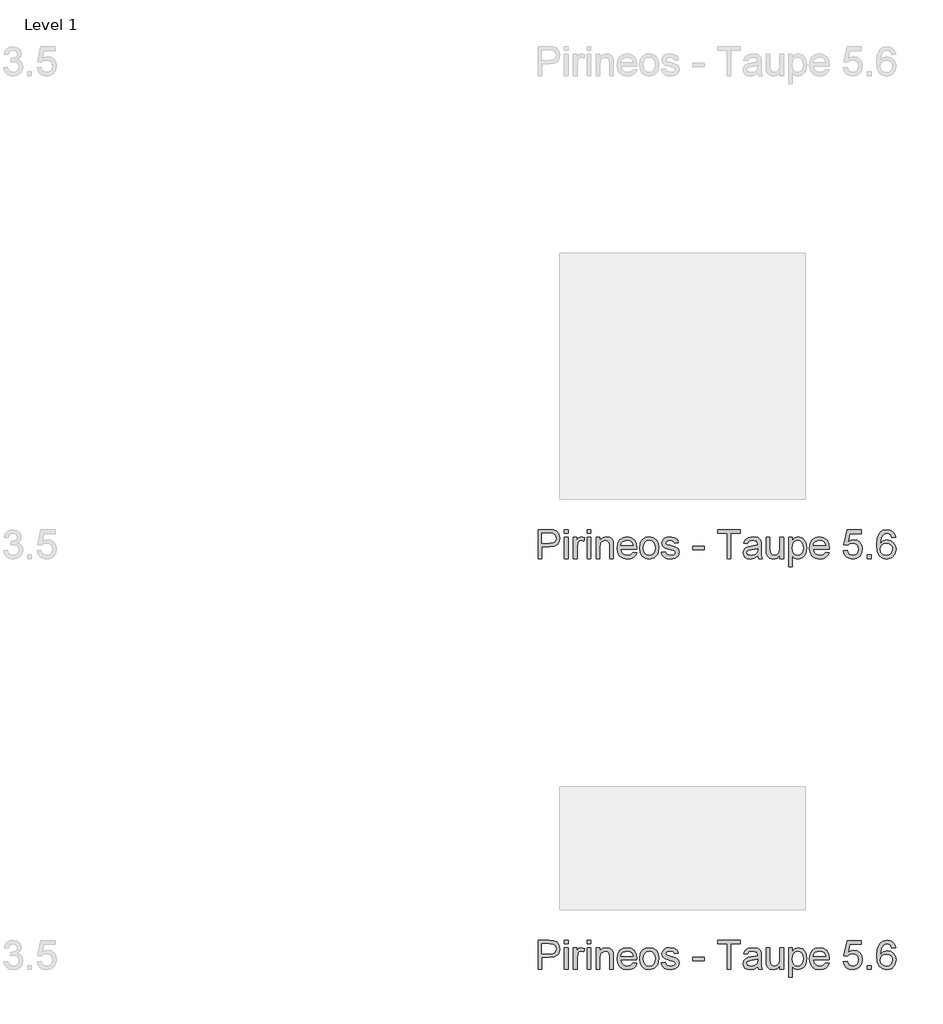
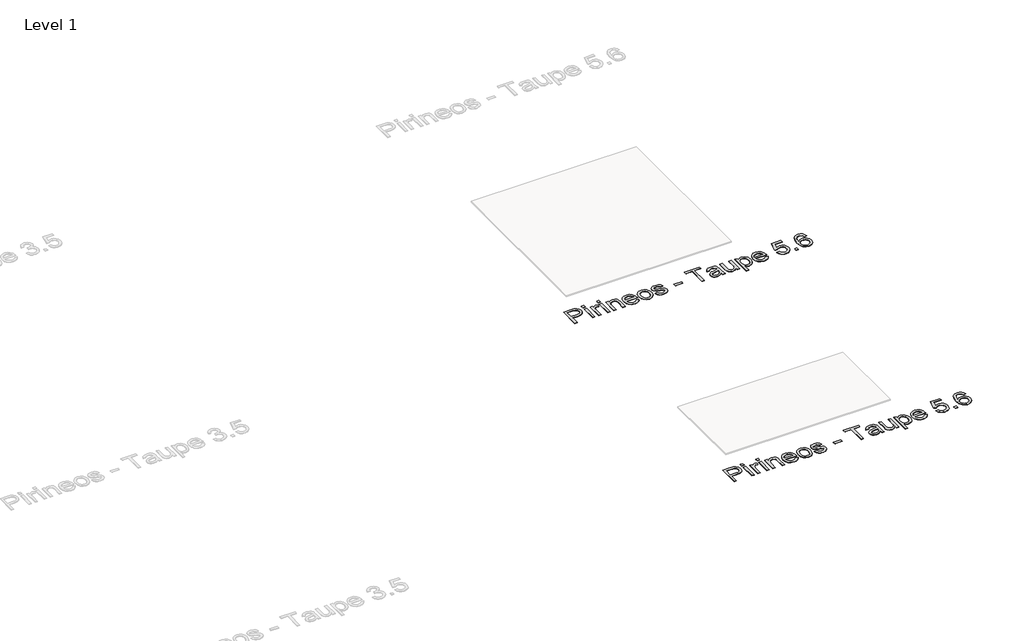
# One storey, part 26 of 80: 2 proxies.
"""IFC4 building model written with IfcOpenShell, lengths in millimetres."""

from ifc_helpers import new_model, si_unit, origin, origin_with_axes, place, context, project, spatial, polyline, outline, extrude, element, save

model = new_model("IFC4")

# Units and contexts
model_context = context("Model", 3, world=origin())
ifc_project = project(units=[si_unit("LENGTHUNIT", "METRE", prefix="MILLI")], contexts=[model_context])

# Site, building, storey
site = spatial("IfcSite", under=ifc_project)
building = spatial("IfcBuilding", under=site)
storey = spatial("IfcBuildingStorey", under=building, Name="Level 1", Elevation=0.0)

# Proxies
placement = place(None, origin())
element("IfcBuildingElementProxy", 1, Name="24\" Arial", ObjectType="24\" Arial", at=placement, inside=storey, context=model_context, shape_type="SweptSolid", body=[
    extrude(outline(polyline([(-7713.5376464, -616.5984808), (-7713.5376464, -498.4446346), (-7669.7491848, -498.4446346), (-7652.0953387, -499.5696346), (-7637.7443771, -505.0936731), (-7628.4414925, -516.51675), (-7624.9222617, -532.6273269), (-7627.2984637, -546.5528077), (-7634.4270694, -558.1561731), (-7647.7575983, -565.9879038), (-7668.7395694, -568.5984808), (-7698.7684156, -568.5984808), (-7698.7684156, -616.5984808), (-7713.5376464, -616.5984808)]), holes=[polyline([(-7698.7684156, -553.82925), (-7667.8741848, -553.82925), (-7654.778031, -552.4734808), (-7646.1241848, -548.4061731), (-7641.2996656, -541.8797308), (-7639.6914925, -533.1465577), (-7643.4847617, -520.9157884), (-7653.4511079, -514.2234808), (-7668.2203387, -513.2138654), (-7698.7684156, -513.2138654), (-7698.7684156, -553.82925)])]), origin_with_axes(), (0.0, 0.0, 1.0), 2.0),
    extrude(outline(polyline([(-7606.4607233, -616.5984808), (-7606.4607233, -529.82925), (-7591.6914925, -529.82925), (-7591.6914925, -616.5984808), (-7606.4607233, -616.5984808)])), origin_with_axes(), (0.0, 0.0, 1.0), 2.0),
    extrude(outline(polyline([(-7606.4607233, -513.2138654), (-7606.4607233, -498.4446346), (-7591.6914925, -498.4446346), (-7591.6914925, -513.2138654), (-7606.4607233, -513.2138654)])), origin_with_axes(), (0.0, 0.0, 1.0), 2.0),
    extrude(outline(polyline([(-7569.5376464, -616.5984808), (-7569.5376464, -529.82925), (-7556.6145694, -529.82925), (-7556.6145694, -542.6657884), (-7547.4414925, -530.8388654), (-7538.2107233, -527.9830961), (-7523.3838002, -532.5407884), (-7528.3164925, -545.7811731), (-7538.7011079, -542.7523269), (-7547.0520694, -545.6657884), (-7552.3741848, -553.7427115), (-7554.7684156, -570.9927115), (-7554.7684156, -616.5984808), (-7569.5376464, -616.5984808)])), origin_with_axes(), (0.0, 0.0, 1.0), 2.0),
    extrude(outline(polyline([(-7514.153031, -616.5984808), (-7514.153031, -529.82925), (-7499.3838002, -529.82925), (-7499.3838002, -616.5984808), (-7514.153031, -616.5984808)])), origin_with_axes(), (0.0, 0.0, 1.0), 2.0),
    extrude(outline(polyline([(-7514.153031, -513.2138654), (-7514.153031, -498.4446346), (-7499.3838002, -498.4446346), (-7499.3838002, -513.2138654), (-7514.153031, -513.2138654)])), origin_with_axes(), (0.0, 0.0, 1.0), 2.0),
    extrude(outline(polyline([(-7477.2299541, -616.5984808), (-7477.2299541, -529.82925), (-7462.4607233, -529.82925), (-7462.4607233, -541.9446346), (-7451.1674541, -531.4734808), (-7435.7491848, -527.9830961), (-7421.8020694, -530.7955961), (-7412.2828387, -538.1802115), (-7407.8549541, -549.0407884), (-7407.0761079, -563.3196346), (-7407.0761079, -616.5984808), (-7421.8453387, -616.5984808), (-7421.8453387, -565.3100192), (-7423.5472617, -552.2427115), (-7429.5616848, -545.3340577), (-7439.7011079, -542.7523269), (-7455.7251464, -548.5504038), (-7460.7768291, -556.9518461), (-7462.4607233, -570.5600192), (-7462.4607233, -616.5984808), (-7477.2299541, -616.5984808)])), origin_with_axes(), (0.0, 0.0, 1.0), 2.0),
    extrude(outline(polyline([(-7326.0184156, -590.7523269), (-7311.5376464, -592.5984808), (-7316.7551944, -603.5095384), (-7325.0809156, -611.6657884), (-7336.3273098, -616.7499231), (-7350.3068771, -618.4446346), (-7367.6362041, -615.5203558), (-7380.9703387, -606.7475192), (-7389.4727425, -592.6958365), (-7392.3068771, -573.9350192), (-7389.4438964, -554.5431923), (-7380.8549541, -540.0407884), (-7367.7011079, -530.9975192), (-7351.1434156, -527.9830961), (-7335.1013483, -530.9903077), (-7322.2828387, -540.0119423), (-7313.8777906, -554.4855), (-7311.0761079, -573.8484808), (-7311.1626464, -577.82925), (-7377.5376464, -577.82925), (-7374.981156, -588.8845384), (-7369.0424541, -597.0119423), (-7360.4715406, -602.0095384), (-7350.0184156, -603.6754038), (-7335.5376464, -600.5888654), (-7326.0184156, -590.7523269)]), holes=[polyline([(-7377.5376464, -563.0600192), (-7325.8453387, -563.0600192), (-7331.7588002, -549.6754038), (-7340.3693771, -544.4830961), (-7351.2011079, -542.7523269), (-7369.3886079, -548.2763654), (-7375.1109637, -554.7342981), (-7377.5376464, -563.0600192)])]), origin_with_axes(), (0.0, 0.0, 1.0), 2.0),
    extrude(outline(polyline([(-7299.9991848, -573.2138654), (-7296.8044733, -552.2931923), (-7287.2203387, -537.5888654), (-7275.3789925, -530.3845384), (-7261.2011079, -527.9830961), (-7245.6854829, -530.907375), (-7233.2924541, -539.6802115), (-7225.168656, -553.6092981), (-7222.4607233, -572.0023269), (-7227.2491848, -598.2811731), (-7241.1963002, -613.1513654), (-7261.2011079, -618.4446346), (-7276.9042329, -615.5311731), (-7289.2828387, -606.7907884), (-7297.3200983, -592.5696346), (-7299.9991848, -573.2138654)]), holes=[polyline([(-7285.2299541, -573.1850192), (-7283.5208194, -586.5516058), (-7278.3934156, -596.0744423), (-7270.6770694, -601.7751634), (-7261.2011079, -603.6754038), (-7251.7684156, -601.7643461), (-7244.0664925, -596.0311731), (-7238.9390887, -586.3821346), (-7237.2299541, -572.7234808), (-7238.949906, -559.7463173), (-7244.1097617, -550.3532884), (-7251.8225021, -544.6525673), (-7261.2011079, -542.7523269), (-7270.6770694, -544.6453558), (-7278.3934156, -550.3244423), (-7283.5208194, -559.8256442), (-7285.2299541, -573.1850192)])]), origin_with_axes(), (0.0, 0.0, 1.0), 2.0),
    extrude(outline(polyline([(-7211.3838002, -590.7523269), (-7196.6145694, -588.9061731), (-7189.778031, -599.8677115), (-7174.1145694, -603.6754038), (-7159.0568771, -600.1850192), (-7154.153031, -591.9927115), (-7159.0857233, -585.3580961), (-7174.2876464, -581.1465577), (-7196.528031, -573.9205961), (-7206.2347617, -565.4830961), (-7209.5376464, -553.5696346), (-7206.8838002, -542.5648269), (-7199.6434156, -534.1561731), (-7190.2539925, -529.7859808), (-7177.5472617, -527.9830961), (-7159.5761079, -530.8821346), (-7148.153031, -538.7282884), (-7143.0761079, -551.9830961), (-7157.8453387, -553.82925), (-7163.3982233, -545.6802115), (-7176.3934156, -542.7523269), (-7190.528031, -545.5504038), (-7194.7684156, -552.0696346), (-7193.0088002, -556.3677115), (-7187.4991848, -559.6273269), (-7174.778031, -562.7715577), (-7153.1001464, -569.7234808), (-7143.0328387, -577.5984808), (-7139.3838002, -590.4350192), (-7143.6674541, -604.5696346), (-7156.028031, -614.8244423), (-7174.3164925, -618.4446346), (-7189.2083194, -616.6994423), (-7200.0761079, -611.4638654), (-7207.3309156, -602.7955961), (-7211.3838002, -590.7523269)])), origin_with_axes(), (0.0, 0.0, 1.0), 2.0),
    extrude(outline(polyline([(-7083.9991848, -581.5215577), (-7083.9991848, -566.7523269), (-7037.8453387, -566.7523269), (-7037.8453387, -581.5215577), (-7083.9991848, -581.5215577)])), origin_with_axes(), (0.0, 0.0, 1.0), 2.0),
    extrude(outline(polyline([(-6943.6914925, -616.5984808), (-6943.6914925, -513.2138654), (-6982.4607233, -513.2138654), (-6982.4607233, -498.4446346), (-6890.153031, -498.4446346), (-6890.153031, -513.2138654), (-6928.9222617, -513.2138654), (-6928.9222617, -616.5984808), (-6943.6914925, -616.5984808)])), origin_with_axes(), (0.0, 0.0, 1.0), 2.0),
    extrude(outline(polyline([(-6819.9991848, -605.5215577), (-6834.3213002, -615.5311731), (-6850.1434156, -618.4446346), (-6862.4859637, -616.6922308), (-6871.590531, -611.4350192), (-6877.2047137, -603.4518461), (-6879.0761079, -593.5215577), (-6876.2491848, -581.8388654), (-6868.8213002, -573.3580961), (-6858.4799541, -568.5119423), (-6845.7011079, -566.2907884), (-6820.0857233, -561.2138654), (-6819.9991848, -557.9254038), (-6824.0664925, -547.0215577), (-6840.3934156, -542.7523269), (-6855.3357233, -545.5936731), (-6862.4607233, -555.6754038), (-6877.2299541, -553.82925), (-6870.840531, -539.4061731), (-6857.9751464, -530.95425), (-6838.4895694, -527.9830961), (-6820.590531, -530.6080961), (-6810.4799541, -537.1994423), (-6805.9511079, -547.2234808), (-6805.2299541, -560.1465577), (-6805.2299541, -578.5215577), (-6804.4799541, -604.1802115), (-6801.5376464, -616.5984808), (-6816.3068771, -616.5984808), (-6819.9991848, -605.5215577)]), holes=[polyline([(-6819.9991848, -575.9830961), (-6843.8261079, -580.5119423), (-6856.5328387, -582.9061731), (-6862.2876464, -586.8004038), (-6864.3068771, -592.4830961), (-6859.9078387, -600.4734808), (-6846.9991848, -603.6754038), (-6832.0568771, -600.14175), (-6822.4222617, -591.5888654), (-6820.0857233, -580.1657884), (-6819.9991848, -575.9830961)])]), origin_with_axes(), (0.0, 0.0, 1.0), 2.0),
    extrude(outline(polyline([(-6729.5376464, -616.5984808), (-6729.5376464, -601.6850192), (-6741.1049541, -614.2547308), (-6756.1914925, -618.4446346), (-6770.0809156, -615.5023269), (-6779.6578387, -608.1177115), (-6784.0568771, -597.2427115), (-6784.9222617, -583.5119423), (-6784.9222617, -529.82925), (-6770.153031, -529.82925), (-6770.153031, -576.5600192), (-6769.2588002, -591.6177115), (-6763.4174541, -600.4590577), (-6752.4126464, -603.6754038), (-6740.0809156, -600.3869423), (-6731.9318771, -591.4302115), (-6729.5376464, -574.9734808), (-6729.5376464, -529.82925), (-6714.7684156, -529.82925), (-6714.7684156, -616.5984808), (-6729.5376464, -616.5984808)])), origin_with_axes(), (0.0, 0.0, 1.0), 2.0),
    extrude(outline(polyline([(-6694.4607233, -649.82925), (-6694.4607233, -529.82925), (-6679.6914925, -529.82925), (-6679.6914925, -544.3100192), (-6669.4799541, -532.0648269), (-6655.6914925, -527.9830961), (-6636.9703387, -533.6946346), (-6624.7395694, -549.7907884), (-6620.6145694, -572.5504038), (-6625.2732233, -596.4782884), (-6630.9847617, -605.8677115), (-6638.8020694, -612.7763654), (-6657.4799541, -618.4446346), (-6670.3309156, -614.6513654), (-6679.6914925, -605.0600192), (-6679.6914925, -649.82925), (-6694.4607233, -649.82925)]), holes=[polyline([(-6679.6914925, -573.9061731), (-6678.0941367, -587.1465577), (-6673.3020694, -596.4061731), (-6666.231156, -601.8580961), (-6657.7972617, -603.6754038), (-6649.2263483, -601.7931923), (-6641.9751464, -596.1465577), (-6637.0316367, -586.548), (-6635.3838002, -572.8100192), (-6636.9919733, -559.64175), (-6641.8164925, -550.2523269), (-6648.8765887, -544.6273269), (-6657.1914925, -542.7523269), (-6665.5388483, -544.7463173), (-6672.8693771, -550.7282884), (-6677.9859637, -560.5107404), (-6679.6914925, -573.9061731)])]), origin_with_axes(), (0.0, 0.0, 1.0), 2.0),
    extrude(outline(polyline([(-6543.2491848, -590.7523269), (-6528.7684156, -592.5984808), (-6533.9859637, -603.5095384), (-6542.3116848, -611.6657884), (-6553.5580791, -616.7499231), (-6567.5376464, -618.4446346), (-6584.8669733, -615.5203558), (-6598.2011079, -606.7475192), (-6606.7035117, -592.6958365), (-6609.5376464, -573.9350192), (-6606.6746656, -554.5431923), (-6598.0857233, -540.0407884), (-6584.9318771, -530.9975192), (-6568.3741848, -527.9830961), (-6552.3321175, -530.9903077), (-6539.5136079, -540.0119423), (-6531.1085598, -554.4855), (-6528.3068771, -573.8484808), (-6528.3934156, -577.82925), (-6594.7684156, -577.82925), (-6592.2119252, -588.8845384), (-6586.2732233, -597.0119423), (-6577.7023098, -602.0095384), (-6567.2491848, -603.6754038), (-6552.7684156, -600.5888654), (-6543.2491848, -590.7523269)]), holes=[polyline([(-6594.7684156, -563.0600192), (-6543.0761079, -563.0600192), (-6548.9895694, -549.6754038), (-6557.6001464, -544.4830961), (-6568.4318771, -542.7523269), (-6586.6193771, -548.2763654), (-6592.3417329, -554.7342981), (-6594.7684156, -563.0600192)])]), origin_with_axes(), (0.0, 0.0, 1.0), 2.0),
    extrude(outline(polyline([(-6471.0761079, -585.2138654), (-6456.3068771, -583.3677115), (-6448.8645694, -598.5840577), (-6433.4318771, -603.6754038), (-6422.8453387, -601.9049711), (-6414.9126464, -596.5936731), (-6409.9583194, -588.3544904), (-6408.3068771, -577.8004038), (-6409.8537521, -567.8629038), (-6414.4943771, -560.2619423), (-6422.2648098, -555.4374231), (-6433.2011079, -553.82925), (-6446.1674541, -556.3965577), (-6454.4607233, -563.0600192), (-6469.2299541, -561.2138654), (-6456.3068771, -500.2907884), (-6399.0761079, -500.2907884), (-6399.0761079, -515.0600192), (-6444.3645694, -515.0600192), (-6450.6818771, -547.5984808), (-6440.1313964, -541.1946346), (-6429.0761079, -539.0600192), (-6415.2768291, -541.7066538), (-6403.8213002, -549.6465577), (-6396.1085598, -561.7475192), (-6393.5376464, -576.8773269), (-6395.8525502, -591.6465577), (-6402.7972617, -604.2811731), (-6416.0953387, -614.9037692), (-6433.4895694, -618.4446346), (-6447.9955791, -616.1693942), (-6459.5520694, -609.3436731), (-6467.4739444, -598.7607404), (-6471.0761079, -585.2138654)])), origin_with_axes(), (0.0, 0.0, 1.0), 2.0),
    extrude(outline(polyline([(-6373.2299541, -616.5984808), (-6373.2299541, -601.82925), (-6358.4607233, -601.82925), (-6358.4607233, -616.5984808), (-6373.2299541, -616.5984808)])), origin_with_axes(), (0.0, 0.0, 1.0), 2.0),
    extrude(outline(polyline([(-6258.7684156, -529.82925), (-6273.5376464, -531.6754038), (-6279.1338002, -519.3580961), (-6285.8333194, -514.7499231), (-6293.9318771, -513.2138654), (-6307.2588002, -516.7907884), (-6317.340531, -530.2186731), (-6321.5376464, -556.5407884), (-6308.5136079, -544.7571346), (-6292.3741848, -540.9061731), (-6278.7299541, -543.5383846), (-6267.278031, -551.4350192), (-6259.5112041, -563.4999231), (-6256.9222617, -578.6369423), (-6261.7972617, -599.01675), (-6275.2107233, -613.4398269), (-6294.5664925, -618.4446346), (-6311.3225021, -615.1273269), (-6324.6674541, -605.1754038), (-6333.3970214, -587.6080961), (-6336.3068771, -561.4446346), (-6333.0761079, -532.0287692), (-6323.3838002, -511.9157884), (-6310.1506271, -501.8124231), (-6293.0088002, -498.4446346), (-6280.0496656, -500.5287692), (-6269.6722617, -506.7811731), (-6262.403031, -516.7114615), (-6258.7684156, -529.82925)]), holes=[polyline([(-6321.5376464, -578.4061731), (-6318.1193771, -591.1994423), (-6309.0328387, -600.4879038), (-6295.7203387, -603.6754038), (-6285.9739444, -602.0239615), (-6278.3116848, -597.0696346), (-6273.3465406, -589.2811731), (-6271.6914925, -579.1273269), (-6273.324906, -569.3809327), (-6278.2251464, -561.9494423), (-6286.0172137, -557.2439134), (-6296.3261079, -555.6754038), (-6306.0580791, -557.2439134), (-6314.1963002, -561.9494423), (-6319.7023098, -569.2006442), (-6321.5376464, -578.4061731)])]), origin_with_axes(), (0.0, 0.0, 1.0), 2.0),
])
element("IfcBuildingElementProxy", 2, Name="24\" Arial", ObjectType="24\" Arial", at=placement, inside=storey, context=model_context, shape_type="SweptSolid", body=[
    extrude(outline(polyline([(-7713.5376464, -2287.8052427), (-7713.5376464, -2169.6513966), (-7669.7491848, -2169.6513966), (-7652.0953387, -2170.7763966), (-7637.7443771, -2176.300435), (-7628.4414925, -2187.723512), (-7624.9222617, -2203.8340889), (-7627.2984637, -2217.7595697), (-7634.4270694, -2229.362935), (-7647.7575983, -2237.1946658), (-7668.7395694, -2239.8052427), (-7698.7684156, -2239.8052427), (-7698.7684156, -2287.8052427), (-7713.5376464, -2287.8052427)]), holes=[polyline([(-7698.7684156, -2225.036012), (-7667.8741848, -2225.036012), (-7654.778031, -2223.6802427), (-7646.1241848, -2219.612935), (-7641.2996656, -2213.0864927), (-7639.6914925, -2204.3533197), (-7643.4847617, -2192.1225504), (-7653.4511079, -2185.4302427), (-7668.2203387, -2184.4206273), (-7698.7684156, -2184.4206273), (-7698.7684156, -2225.036012)])]), origin_with_axes(), (0.0, 0.0, 1.0), 2.0),
    extrude(outline(polyline([(-7606.4607233, -2287.8052427), (-7606.4607233, -2201.036012), (-7591.6914925, -2201.036012), (-7591.6914925, -2287.8052427), (-7606.4607233, -2287.8052427)])), origin_with_axes(), (0.0, 0.0, 1.0), 2.0),
    extrude(outline(polyline([(-7606.4607233, -2184.4206273), (-7606.4607233, -2169.6513966), (-7591.6914925, -2169.6513966), (-7591.6914925, -2184.4206273), (-7606.4607233, -2184.4206273)])), origin_with_axes(), (0.0, 0.0, 1.0), 2.0),
    extrude(outline(polyline([(-7569.5376464, -2287.8052427), (-7569.5376464, -2201.036012), (-7556.6145694, -2201.036012), (-7556.6145694, -2213.8725504), (-7547.4414925, -2202.0456273), (-7538.2107233, -2199.1898581), (-7523.3838002, -2203.7475504), (-7528.3164925, -2216.987935), (-7538.7011079, -2213.9590889), (-7547.0520694, -2216.8725504), (-7552.3741848, -2224.9494735), (-7554.7684156, -2242.1994735), (-7554.7684156, -2287.8052427), (-7569.5376464, -2287.8052427)])), origin_with_axes(), (0.0, 0.0, 1.0), 2.0),
    extrude(outline(polyline([(-7514.153031, -2287.8052427), (-7514.153031, -2201.036012), (-7499.3838002, -2201.036012), (-7499.3838002, -2287.8052427), (-7514.153031, -2287.8052427)])), origin_with_axes(), (0.0, 0.0, 1.0), 2.0),
    extrude(outline(polyline([(-7514.153031, -2184.4206273), (-7514.153031, -2169.6513966), (-7499.3838002, -2169.6513966), (-7499.3838002, -2184.4206273), (-7514.153031, -2184.4206273)])), origin_with_axes(), (0.0, 0.0, 1.0), 2.0),
    extrude(outline(polyline([(-7477.2299541, -2287.8052427), (-7477.2299541, -2201.036012), (-7462.4607233, -2201.036012), (-7462.4607233, -2213.1513966), (-7451.1674541, -2202.6802427), (-7435.7491848, -2199.1898581), (-7421.8020694, -2202.0023581), (-7412.2828387, -2209.3869735), (-7407.8549541, -2220.2475504), (-7407.0761079, -2234.5263966), (-7407.0761079, -2287.8052427), (-7421.8453387, -2287.8052427), (-7421.8453387, -2236.5167812), (-7423.5472617, -2223.4494735), (-7429.5616848, -2216.5408197), (-7439.7011079, -2213.9590889), (-7455.7251464, -2219.7571658), (-7460.7768291, -2228.1586081), (-7462.4607233, -2241.7667812), (-7462.4607233, -2287.8052427), (-7477.2299541, -2287.8052427)])), origin_with_axes(), (0.0, 0.0, 1.0), 2.0),
    extrude(outline(polyline([(-7326.0184156, -2261.9590889), (-7311.5376464, -2263.8052427), (-7316.7551944, -2274.7163004), (-7325.0809156, -2282.8725504), (-7336.3273098, -2287.956685), (-7350.3068771, -2289.6513966), (-7367.6362041, -2286.7271177), (-7380.9703387, -2277.9542812), (-7389.4727425, -2263.9025985), (-7392.3068771, -2245.1417812), (-7389.4438964, -2225.7499543), (-7380.8549541, -2211.2475504), (-7367.7011079, -2202.2042812), (-7351.1434156, -2199.1898581), (-7335.1013483, -2202.1970697), (-7322.2828387, -2211.2187043), (-7313.8777906, -2225.692262), (-7311.0761079, -2245.0552427), (-7311.1626464, -2249.036012), (-7377.5376464, -2249.036012), (-7374.981156, -2260.0913004), (-7369.0424541, -2268.2187043), (-7360.4715406, -2273.2163004), (-7350.0184156, -2274.8821658), (-7335.5376464, -2271.7956273), (-7326.0184156, -2261.9590889)]), holes=[polyline([(-7377.5376464, -2234.2667812), (-7325.8453387, -2234.2667812), (-7331.7588002, -2220.8821658), (-7340.3693771, -2215.6898581), (-7351.2011079, -2213.9590889), (-7369.3886079, -2219.4831273), (-7375.1109637, -2225.94106), (-7377.5376464, -2234.2667812)])]), origin_with_axes(), (0.0, 0.0, 1.0), 2.0),
    extrude(outline(polyline([(-7299.9991848, -2244.4206273), (-7296.8044733, -2223.4999543), (-7287.2203387, -2208.7956273), (-7275.3789925, -2201.5913004), (-7261.2011079, -2199.1898581), (-7245.6854829, -2202.114137), (-7233.2924541, -2210.8869735), (-7225.168656, -2224.81606), (-7222.4607233, -2243.2090889), (-7227.2491848, -2269.487935), (-7241.1963002, -2284.3581273), (-7261.2011079, -2289.6513966), (-7276.9042329, -2286.737935), (-7289.2828387, -2277.9975504), (-7297.3200983, -2263.7763966), (-7299.9991848, -2244.4206273)]), holes=[polyline([(-7285.2299541, -2244.3917812), (-7283.5208194, -2257.7583677), (-7278.3934156, -2267.2812043), (-7270.6770694, -2272.9819254), (-7261.2011079, -2274.8821658), (-7251.7684156, -2272.9711081), (-7244.0664925, -2267.237935), (-7238.9390887, -2257.5888966), (-7237.2299541, -2243.9302427), (-7238.949906, -2230.9530793), (-7244.1097617, -2221.5600504), (-7251.8225021, -2215.8593293), (-7261.2011079, -2213.9590889), (-7270.6770694, -2215.8521177), (-7278.3934156, -2221.5312043), (-7283.5208194, -2231.0324062), (-7285.2299541, -2244.3917812)])]), origin_with_axes(), (0.0, 0.0, 1.0), 2.0),
    extrude(outline(polyline([(-7211.3838002, -2261.9590889), (-7196.6145694, -2260.112935), (-7189.778031, -2271.0744735), (-7174.1145694, -2274.8821658), (-7159.0568771, -2271.3917812), (-7154.153031, -2263.1994735), (-7159.0857233, -2256.5648581), (-7174.2876464, -2252.3533197), (-7196.528031, -2245.1273581), (-7206.2347617, -2236.6898581), (-7209.5376464, -2224.7763966), (-7206.8838002, -2213.7715889), (-7199.6434156, -2205.362935), (-7190.2539925, -2200.9927427), (-7177.5472617, -2199.1898581), (-7159.5761079, -2202.0888966), (-7148.153031, -2209.9350504), (-7143.0761079, -2223.1898581), (-7157.8453387, -2225.036012), (-7163.3982233, -2216.8869735), (-7176.3934156, -2213.9590889), (-7190.528031, -2216.7571658), (-7194.7684156, -2223.2763966), (-7193.0088002, -2227.5744735), (-7187.4991848, -2230.8340889), (-7174.778031, -2233.9783197), (-7153.1001464, -2240.9302427), (-7143.0328387, -2248.8052427), (-7139.3838002, -2261.6417812), (-7143.6674541, -2275.7763966), (-7156.028031, -2286.0312043), (-7174.3164925, -2289.6513966), (-7189.2083194, -2287.9062043), (-7200.0761079, -2282.6706273), (-7207.3309156, -2274.0023581), (-7211.3838002, -2261.9590889)])), origin_with_axes(), (0.0, 0.0, 1.0), 2.0),
    extrude(outline(polyline([(-7083.9991848, -2252.7283197), (-7083.9991848, -2237.9590889), (-7037.8453387, -2237.9590889), (-7037.8453387, -2252.7283197), (-7083.9991848, -2252.7283197)])), origin_with_axes(), (0.0, 0.0, 1.0), 2.0),
    extrude(outline(polyline([(-6943.6914925, -2287.8052427), (-6943.6914925, -2184.4206273), (-6982.4607233, -2184.4206273), (-6982.4607233, -2169.6513966), (-6890.153031, -2169.6513966), (-6890.153031, -2184.4206273), (-6928.9222617, -2184.4206273), (-6928.9222617, -2287.8052427), (-6943.6914925, -2287.8052427)])), origin_with_axes(), (0.0, 0.0, 1.0), 2.0),
    extrude(outline(polyline([(-6819.9991848, -2276.7283197), (-6834.3213002, -2286.737935), (-6850.1434156, -2289.6513966), (-6862.4859637, -2287.8989927), (-6871.590531, -2282.6417812), (-6877.2047137, -2274.6586081), (-6879.0761079, -2264.7283197), (-6876.2491848, -2253.0456273), (-6868.8213002, -2244.5648581), (-6858.4799541, -2239.7187043), (-6845.7011079, -2237.4975504), (-6820.0857233, -2232.4206273), (-6819.9991848, -2229.1321658), (-6824.0664925, -2218.2283197), (-6840.3934156, -2213.9590889), (-6855.3357233, -2216.800435), (-6862.4607233, -2226.8821658), (-6877.2299541, -2225.036012), (-6870.840531, -2210.612935), (-6857.9751464, -2202.161012), (-6838.4895694, -2199.1898581), (-6820.590531, -2201.8148581), (-6810.4799541, -2208.4062043), (-6805.9511079, -2218.4302427), (-6805.2299541, -2231.3533197), (-6805.2299541, -2249.7283197), (-6804.4799541, -2275.3869735), (-6801.5376464, -2287.8052427), (-6816.3068771, -2287.8052427), (-6819.9991848, -2276.7283197)]), holes=[polyline([(-6819.9991848, -2247.1898581), (-6843.8261079, -2251.7187043), (-6856.5328387, -2254.112935), (-6862.2876464, -2258.0071658), (-6864.3068771, -2263.6898581), (-6859.9078387, -2271.6802427), (-6846.9991848, -2274.8821658), (-6832.0568771, -2271.348512), (-6822.4222617, -2262.7956273), (-6820.0857233, -2251.3725504), (-6819.9991848, -2247.1898581)])]), origin_with_axes(), (0.0, 0.0, 1.0), 2.0),
    extrude(outline(polyline([(-6729.5376464, -2287.8052427), (-6729.5376464, -2272.8917812), (-6741.1049541, -2285.4614927), (-6756.1914925, -2289.6513966), (-6770.0809156, -2286.7090889), (-6779.6578387, -2279.3244735), (-6784.0568771, -2268.4494735), (-6784.9222617, -2254.7187043), (-6784.9222617, -2201.036012), (-6770.153031, -2201.036012), (-6770.153031, -2247.7667812), (-6769.2588002, -2262.8244735), (-6763.4174541, -2271.6658197), (-6752.4126464, -2274.8821658), (-6740.0809156, -2271.5937043), (-6731.9318771, -2262.6369735), (-6729.5376464, -2246.1802427), (-6729.5376464, -2201.036012), (-6714.7684156, -2201.036012), (-6714.7684156, -2287.8052427), (-6729.5376464, -2287.8052427)])), origin_with_axes(), (0.0, 0.0, 1.0), 2.0),
    extrude(outline(polyline([(-6694.4607233, -2321.036012), (-6694.4607233, -2201.036012), (-6679.6914925, -2201.036012), (-6679.6914925, -2215.5167812), (-6669.4799541, -2203.2715889), (-6655.6914925, -2199.1898581), (-6636.9703387, -2204.9013966), (-6624.7395694, -2220.9975504), (-6620.6145694, -2243.7571658), (-6625.2732233, -2267.6850504), (-6630.9847617, -2277.0744735), (-6638.8020694, -2283.9831273), (-6657.4799541, -2289.6513966), (-6670.3309156, -2285.8581273), (-6679.6914925, -2276.2667812), (-6679.6914925, -2321.036012), (-6694.4607233, -2321.036012)]), holes=[polyline([(-6679.6914925, -2245.112935), (-6678.0941367, -2258.3533197), (-6673.3020694, -2267.612935), (-6666.231156, -2273.0648581), (-6657.7972617, -2274.8821658), (-6649.2263483, -2272.9999543), (-6641.9751464, -2267.3533197), (-6637.0316367, -2257.754762), (-6635.3838002, -2244.0167812), (-6636.9919733, -2230.848512), (-6641.8164925, -2221.4590889), (-6648.8765887, -2215.8340889), (-6657.1914925, -2213.9590889), (-6665.5388483, -2215.9530793), (-6672.8693771, -2221.9350504), (-6677.9859637, -2231.7175023), (-6679.6914925, -2245.112935)])]), origin_with_axes(), (0.0, 0.0, 1.0), 2.0),
    extrude(outline(polyline([(-6543.2491848, -2261.9590889), (-6528.7684156, -2263.8052427), (-6533.9859637, -2274.7163004), (-6542.3116848, -2282.8725504), (-6553.5580791, -2287.956685), (-6567.5376464, -2289.6513966), (-6584.8669733, -2286.7271177), (-6598.2011079, -2277.9542812), (-6606.7035117, -2263.9025985), (-6609.5376464, -2245.1417812), (-6606.6746656, -2225.7499543), (-6598.0857233, -2211.2475504), (-6584.9318771, -2202.2042812), (-6568.3741848, -2199.1898581), (-6552.3321175, -2202.1970697), (-6539.5136079, -2211.2187043), (-6531.1085598, -2225.692262), (-6528.3068771, -2245.0552427), (-6528.3934156, -2249.036012), (-6594.7684156, -2249.036012), (-6592.2119252, -2260.0913004), (-6586.2732233, -2268.2187043), (-6577.7023098, -2273.2163004), (-6567.2491848, -2274.8821658), (-6552.7684156, -2271.7956273), (-6543.2491848, -2261.9590889)]), holes=[polyline([(-6594.7684156, -2234.2667812), (-6543.0761079, -2234.2667812), (-6548.9895694, -2220.8821658), (-6557.6001464, -2215.6898581), (-6568.4318771, -2213.9590889), (-6586.6193771, -2219.4831273), (-6592.3417329, -2225.94106), (-6594.7684156, -2234.2667812)])]), origin_with_axes(), (0.0, 0.0, 1.0), 2.0),
    extrude(outline(polyline([(-6471.0761079, -2256.4206273), (-6456.3068771, -2254.5744735), (-6448.8645694, -2269.7908197), (-6433.4318771, -2274.8821658), (-6422.8453387, -2273.1117331), (-6414.9126464, -2267.800435), (-6409.9583194, -2259.5612523), (-6408.3068771, -2249.0071658), (-6409.8537521, -2239.0696658), (-6414.4943771, -2231.4687043), (-6422.2648098, -2226.644185), (-6433.2011079, -2225.036012), (-6446.1674541, -2227.6033197), (-6454.4607233, -2234.2667812), (-6469.2299541, -2232.4206273), (-6456.3068771, -2171.4975504), (-6399.0761079, -2171.4975504), (-6399.0761079, -2186.2667812), (-6444.3645694, -2186.2667812), (-6450.6818771, -2218.8052427), (-6440.1313964, -2212.4013966), (-6429.0761079, -2210.2667812), (-6415.2768291, -2212.9134158), (-6403.8213002, -2220.8533197), (-6396.1085598, -2232.9542812), (-6393.5376464, -2248.0840889), (-6395.8525502, -2262.8533197), (-6402.7972617, -2275.487935), (-6416.0953387, -2286.1105312), (-6433.4895694, -2289.6513966), (-6447.9955791, -2287.3761562), (-6459.5520694, -2280.550435), (-6467.4739444, -2269.9675023), (-6471.0761079, -2256.4206273)])), origin_with_axes(), (0.0, 0.0, 1.0), 2.0),
    extrude(outline(polyline([(-6373.2299541, -2287.8052427), (-6373.2299541, -2273.036012), (-6358.4607233, -2273.036012), (-6358.4607233, -2287.8052427), (-6373.2299541, -2287.8052427)])), origin_with_axes(), (0.0, 0.0, 1.0), 2.0),
    extrude(outline(polyline([(-6258.7684156, -2201.036012), (-6273.5376464, -2202.8821658), (-6279.1338002, -2190.5648581), (-6285.8333194, -2185.956685), (-6293.9318771, -2184.4206273), (-6307.2588002, -2187.9975504), (-6317.340531, -2201.425435), (-6321.5376464, -2227.7475504), (-6308.5136079, -2215.9638966), (-6292.3741848, -2212.112935), (-6278.7299541, -2214.7451466), (-6267.278031, -2222.6417812), (-6259.5112041, -2234.706685), (-6256.9222617, -2249.8437043), (-6261.7972617, -2270.223512), (-6275.2107233, -2284.6465889), (-6294.5664925, -2289.6513966), (-6311.3225021, -2286.3340889), (-6324.6674541, -2276.3821658), (-6333.3970214, -2258.8148581), (-6336.3068771, -2232.6513966), (-6333.0761079, -2203.2355312), (-6323.3838002, -2183.1225504), (-6310.1506271, -2173.019185), (-6293.0088002, -2169.6513966), (-6280.0496656, -2171.7355312), (-6269.6722617, -2177.987935), (-6262.403031, -2187.9182235), (-6258.7684156, -2201.036012)]), holes=[polyline([(-6321.5376464, -2249.612935), (-6318.1193771, -2262.4062043), (-6309.0328387, -2271.6946658), (-6295.7203387, -2274.8821658), (-6285.9739444, -2273.2307235), (-6278.3116848, -2268.2763966), (-6273.3465406, -2260.487935), (-6271.6914925, -2250.3340889), (-6273.324906, -2240.5876947), (-6278.2251464, -2233.1562043), (-6286.0172137, -2228.4506754), (-6296.3261079, -2226.8821658), (-6306.0580791, -2228.4506754), (-6314.1963002, -2233.1562043), (-6319.7023098, -2240.4074062), (-6321.5376464, -2249.612935)])]), origin_with_axes(), (0.0, 0.0, 1.0), 2.0),
])

save(model, "model.ifc")
